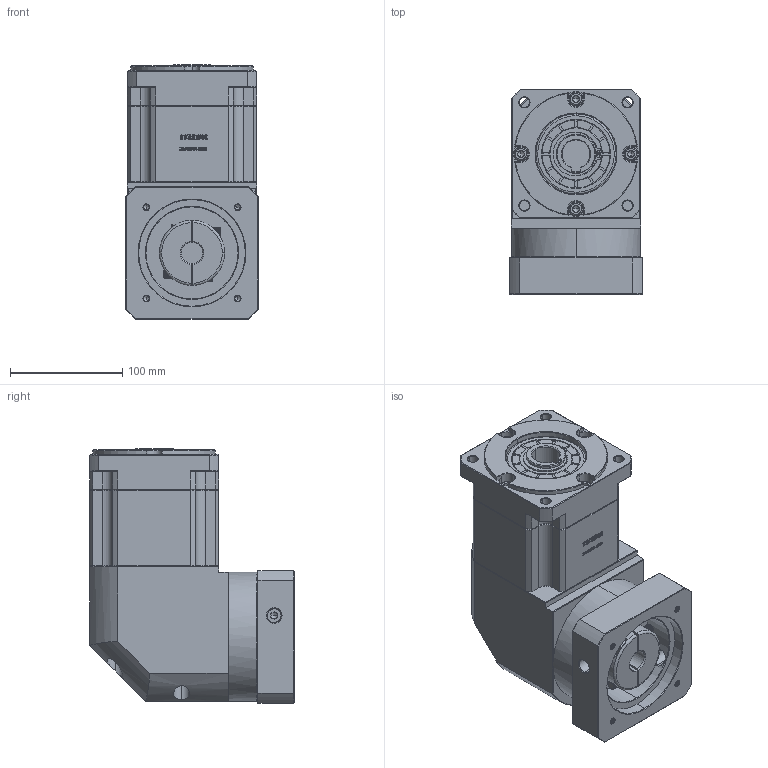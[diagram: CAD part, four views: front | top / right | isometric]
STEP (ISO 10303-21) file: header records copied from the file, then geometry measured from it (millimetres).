
FILE_DESCRIPTION (( 'STEP AP214' ), '1' );
FILE_NAME ('ZBR115A-K25-L2-19-95-115-M6.step', '2023-03-03T05:06:39', ( '' ), ( 'Microsoft' ), 'SwSTEP 2.0', 'SolidWorks 2016', '' );
FILE_SCHEMA (( 'AUTOMOTIVE_DESIGN' ));
Length unit declared in the file: millimetre
Products named in the file (1): ZBR115A-K25-L2-19-95-115-M6
Bounding box: 118 x 182.4 x 226.5 mm (x, y, z)
Volume: 3148579.9 mm3; surface area: 248617.6 mm2
Topology: 6 solids, 6 shells, 2914 faces, 7737 edges, 4968 vertices
Faces by surface type: plane 1551, bspline 601, cylinder 391, cone 363, torus 8
Entity records: 156765 total; most frequent: CARTESIAN_POINT 56913, ORIENTED_EDGE 15418, DIRECTION 11715, EDGE_CURVE 7709, LINE 5235, VECTOR 5235, VERTEX_POINT 4968, AXIS2_PLACEMENT_3D 3240
